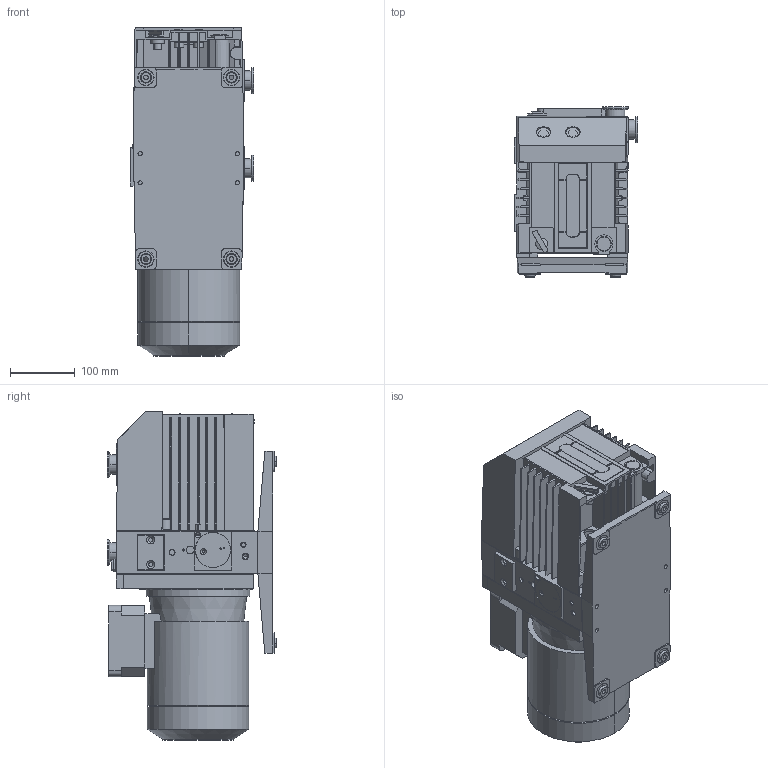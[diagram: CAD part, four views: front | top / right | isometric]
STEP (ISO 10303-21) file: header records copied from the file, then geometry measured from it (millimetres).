
FILE_DESCRIPTION((''),'2;1');
FILE_NAME('300591420_Y19_000_ASM','2016-03-09T',('56762'),('Copyright by Leybold GmbH'),'PRO/ENGINEER BY PARAMETRIC TECHNOLOGY CORPORATION, 2013320','PRO/ENGINEER BY PARAMETRIC TECHNOLOGY CORPORATION, 2013320','');
FILE_SCHEMA(('AUTOMOTIVE_DESIGN { 1 0 10303 214 1 1 1 1 }'));
Length unit declared in the file: millimetre
Products named in the file (22): 300591418_Y19_000; 300591187_Y19_000; 300591204_Y19_000; 300591212_Y19_000; 300591215_Y19_000; 300591188_Y19_000; 300591211_Y19_000; 300591416_Y19_000; 300590946_Y19_000; 300590903_Y19_000; 300590892_Y19_000; 300591208_Y19_000; 300591209_Y19_000; 300591419_Y19_000_ASM; 300590938_Y19_000; 300592868_Y19_000; 300590935_Y19_000; 300590913_Y19_000; 300590922_Y19_000_ASM; 300591217_Y19_000; 300591196_Y19_000; 300591420_Y19_000_ASM
Assembly tree (29 placements, depth 3):
  300591420_Y19_000_ASM
    300591419_Y19_000_ASM
      300591418_Y19_000
      300591187_Y19_000
      300591204_Y19_000
      300591212_Y19_000
      300591215_Y19_000
      300591188_Y19_000
      300591211_Y19_000
      300591416_Y19_000
      300590946_Y19_000
      300590903_Y19_000
      300590892_Y19_000
      300591208_Y19_000
      300591209_Y19_000
    300590938_Y19_000  x4
    300592868_Y19_000
    300590935_Y19_000  x3
    300590922_Y19_000_ASM
      300590913_Y19_000
    300591217_Y19_000
    300591196_Y19_000  x4
Bounding box: 190.9 x 262 x 506.79 mm (x, y, z)
Volume: 14543006.5 mm3; surface area: 1160576.2 mm2
Topology: 26 solids, 33 shells, 1244 faces, 3179 edges, 2075 vertices
Faces by surface type: plane 808, cylinder 288, cone 148
Entity records: 34224 total; most frequent: CARTESIAN_POINT 7152, ORIENTED_EDGE 5334, DIRECTION 5326, EDGE_CURVE 2667, VECTOR 1992, LINE 1992, VERTEX_POINT 1751, AXIS2_PLACEMENT_3D 1667
